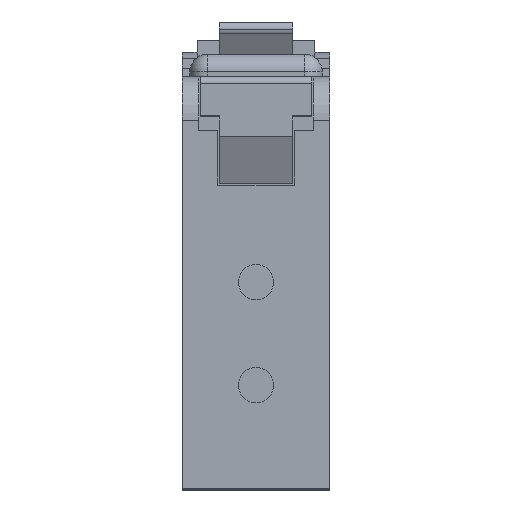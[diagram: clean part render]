
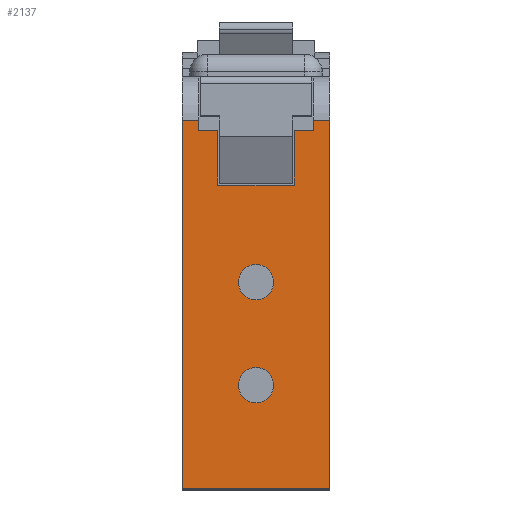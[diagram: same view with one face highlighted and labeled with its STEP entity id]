
A CAD part, top view. The second image highlights one B-rep face of the part: STEP entity #2137.
In plain terms, the highlighted planar face has unit normal (0, 0, 1).
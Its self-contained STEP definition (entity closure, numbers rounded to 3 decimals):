
#79 = CARTESIAN_POINT ( 'NONE',  ( 5., 14., 0. ) ) ;
#150 = EDGE_CURVE ( 'NONE', #2617, #3786, #3608, .T. ) ;
#167 = VERTEX_POINT ( 'NONE', #5317 ) ;
#223 = VECTOR ( 'NONE', #2674, 1000. ) ;
#238 = CARTESIAN_POINT ( 'NONE',  ( 0., 0., 0. ) ) ;
#265 = ORIENTED_EDGE ( 'NONE', *, *, #2139, .T. ) ;
#286 = DIRECTION ( 'NONE',  ( 1., 0., 0. ) ) ;
#400 = VERTEX_POINT ( 'NONE', #4732 ) ;
#408 = CIRCLE ( 'NONE', #1523, 1.2 ) ;
#447 = DIRECTION ( 'NONE',  ( 0., -1., 0. ) ) ;
#459 = DIRECTION ( 'NONE',  ( 0., 0., -1. ) ) ;
#489 = DIRECTION ( 'NONE',  ( 0., 0., 1. ) ) ;
#520 = ORIENTED_EDGE ( 'NONE', *, *, #5043, .F. ) ;
#551 = VERTEX_POINT ( 'NONE', #1941 ) ;
#553 = CARTESIAN_POINT ( 'NONE',  ( 3.9, 10.3, 0. ) ) ;
#635 = DIRECTION ( 'NONE',  ( -1., 0., 0. ) ) ;
#642 = CARTESIAN_POINT ( 'NONE',  ( 3.9, 14., 0. ) ) ;
#654 = CARTESIAN_POINT ( 'NONE',  ( -5., -14., 0. ) ) ;
#675 = AXIS2_PLACEMENT_3D ( 'NONE', #4463, #489, #5735 ) ;
#689 = CARTESIAN_POINT ( 'NONE',  ( 5., 11., 0. ) ) ;
#752 = LINE ( 'NONE', #642, #5416 ) ;
#781 = VECTOR ( 'NONE', #5353, 1000. ) ;
#783 = CARTESIAN_POINT ( 'NONE',  ( 5., 14., 0. ) ) ;
#798 = VECTOR ( 'NONE', #3757, 1000. ) ;
#845 = CARTESIAN_POINT ( 'NONE',  ( 5., 11., 0. ) ) ;
#871 = CARTESIAN_POINT ( 'NONE',  ( 1.2, -7., 0. ) ) ;
#873 = EDGE_LOOP ( 'NONE', ( #4418, #2719 ) ) ;
#901 = DIRECTION ( 'NONE',  ( 0., 0., 1. ) ) ;
#927 = CARTESIAN_POINT ( 'NONE',  ( 0., -7., 0. ) ) ;
#1043 = VECTOR ( 'NONE', #3711, 1000. ) ;
#1065 = CARTESIAN_POINT ( 'NONE',  ( 5., -14., 0. ) ) ;
#1083 = ORIENTED_EDGE ( 'NONE', *, *, #4766, .F. ) ;
#1118 = CARTESIAN_POINT ( 'NONE',  ( 2.6, 10.3, 0. ) ) ;
#1161 = VERTEX_POINT ( 'NONE', #4917 ) ;
#1197 = ORIENTED_EDGE ( 'NONE', *, *, #3193, .T. ) ;
#1318 = ORIENTED_EDGE ( 'NONE', *, *, #4819, .F. ) ;
#1391 = CARTESIAN_POINT ( 'NONE',  ( 2.6, 10.3, 0. ) ) ;
#1417 = VECTOR ( 'NONE', #635, 1000. ) ;
#1449 = DIRECTION ( 'NONE',  ( 1., 0., 0. ) ) ;
#1469 = CARTESIAN_POINT ( 'NONE',  ( -3.9, 11., 0. ) ) ;
#1523 = AXIS2_PLACEMENT_3D ( 'NONE', #927, #901, #5062 ) ;
#1545 = DIRECTION ( 'NONE',  ( 0., 1., 0. ) ) ;
#1659 = VERTEX_POINT ( 'NONE', #3656 ) ;
#1756 = ORIENTED_EDGE ( 'NONE', *, *, #5008, .T. ) ;
#1789 = EDGE_CURVE ( 'NONE', #5133, #3795, #5046, .T. ) ;
#1806 = CARTESIAN_POINT ( 'NONE',  ( 2.6, 6.6, 0. ) ) ;
#1814 = CARTESIAN_POINT ( 'NONE',  ( -3.9, 10.3, 0. ) ) ;
#1851 = LINE ( 'NONE', #3618, #1417 ) ;
#1852 = ORIENTED_EDGE ( 'NONE', *, *, #150, .F. ) ;
#1926 = EDGE_CURVE ( 'NONE', #2174, #5133, #5707, .T. ) ;
#1941 = CARTESIAN_POINT ( 'NONE',  ( 1.2, 0., 0. ) ) ;
#2038 = ORIENTED_EDGE ( 'NONE', *, *, #1926, .F. ) ;
#2059 = CARTESIAN_POINT ( 'NONE',  ( 0., -7., 0. ) ) ;
#2103 = EDGE_CURVE ( 'NONE', #1659, #551, #2991, .T. ) ;
#2132 = VERTEX_POINT ( 'NONE', #1391 ) ;
#2137 = ADVANCED_FACE ( 'NONE', ( #4872, #2667, #4053 ), #4433, .F. ) ;
#2139 = EDGE_CURVE ( 'NONE', #2617, #1161, #1851, .T. ) ;
#2174 = VERTEX_POINT ( 'NONE', #689 ) ;
#2226 = DIRECTION ( 'NONE',  ( -1., 0., 0. ) ) ;
#2253 = LINE ( 'NONE', #4978, #781 ) ;
#2319 = DIRECTION ( 'NONE',  ( 1., 0., 0. ) ) ;
#2400 = ORIENTED_EDGE ( 'NONE', *, *, #3903, .F. ) ;
#2401 = VERTEX_POINT ( 'NONE', #5152 ) ;
#2463 = EDGE_LOOP ( 'NONE', ( #1852, #265, #1756, #3315, #2038, #1197, #1318, #3304, #2400, #3898, #520, #3634 ) ) ;
#2503 = LINE ( 'NONE', #1118, #3829 ) ;
#2607 = VERTEX_POINT ( 'NONE', #4132 ) ;
#2617 = VERTEX_POINT ( 'NONE', #1469 ) ;
#2665 = CARTESIAN_POINT ( 'NONE',  ( -1.2, -7., 0. ) ) ;
#2667 = FACE_BOUND ( 'NONE', #3190, .T. ) ;
#2674 = DIRECTION ( 'NONE',  ( -1., 0., 0. ) ) ;
#2683 = VECTOR ( 'NONE', #447, 1000. ) ;
#2689 = LINE ( 'NONE', #4492, #3557 ) ;
#2719 = ORIENTED_EDGE ( 'NONE', *, *, #2103, .F. ) ;
#2726 = VECTOR ( 'NONE', #2319, 1000. ) ;
#2773 = VERTEX_POINT ( 'NONE', #2665 ) ;
#2802 = CARTESIAN_POINT ( 'NONE',  ( -2.6, 6.6, 0. ) ) ;
#2933 = CARTESIAN_POINT ( 'NONE',  ( 5., -14., 0. ) ) ;
#2991 = CIRCLE ( 'NONE', #675, 1.2 ) ;
#3015 = DIRECTION ( 'NONE',  ( 0., -1., 0. ) ) ;
#3190 = EDGE_LOOP ( 'NONE', ( #4736, #1083 ) ) ;
#3193 = EDGE_CURVE ( 'NONE', #2174, #167, #3540, .T. ) ;
#3200 = AXIS2_PLACEMENT_3D ( 'NONE', #238, #5565, #286 ) ;
#3304 = ORIENTED_EDGE ( 'NONE', *, *, #3385, .F. ) ;
#3312 = DIRECTION ( 'NONE',  ( 0., 0., 1. ) ) ;
#3315 = ORIENTED_EDGE ( 'NONE', *, *, #1789, .F. ) ;
#3385 = EDGE_CURVE ( 'NONE', #2132, #2401, #4527, .T. ) ;
#3540 = LINE ( 'NONE', #845, #223 ) ;
#3557 = VECTOR ( 'NONE', #1449, 1000. ) ;
#3561 = VERTEX_POINT ( 'NONE', #871 ) ;
#3573 = AXIS2_PLACEMENT_3D ( 'NONE', #2059, #3312, #3793 ) ;
#3608 = LINE ( 'NONE', #1814, #2683 ) ;
#3618 = CARTESIAN_POINT ( 'NONE',  ( 5., 11., 0. ) ) ;
#3634 = ORIENTED_EDGE ( 'NONE', *, *, #5006, .F. ) ;
#3656 = CARTESIAN_POINT ( 'NONE',  ( -1.2, 0., 0. ) ) ;
#3711 = DIRECTION ( 'NONE',  ( -1., 0., 0. ) ) ;
#3757 = DIRECTION ( 'NONE',  ( 0., -1., 0. ) ) ;
#3770 = EDGE_CURVE ( 'NONE', #3561, #2773, #408, .T. ) ;
#3786 = VERTEX_POINT ( 'NONE', #4568 ) ;
#3793 = DIRECTION ( 'NONE',  ( 1., 0., 0. ) ) ;
#3795 = VERTEX_POINT ( 'NONE', #654 ) ;
#3829 = VECTOR ( 'NONE', #5607, 1000. ) ;
#3835 = VECTOR ( 'NONE', #5343, 1000. ) ;
#3898 = ORIENTED_EDGE ( 'NONE', *, *, #4411, .F. ) ;
#3903 = EDGE_CURVE ( 'NONE', #2607, #2132, #2503, .T. ) ;
#4053 = FACE_OUTER_BOUND ( 'NONE', #2463, .T. ) ;
#4132 = CARTESIAN_POINT ( 'NONE',  ( 2.6, 6.6, 0. ) ) ;
#4188 = AXIS2_PLACEMENT_3D ( 'NONE', #79, #459, #2226 ) ;
#4223 = LINE ( 'NONE', #2802, #798 ) ;
#4411 = EDGE_CURVE ( 'NONE', #4588, #2607, #5220, .T. ) ;
#4418 = ORIENTED_EDGE ( 'NONE', *, *, #4759, .F. ) ;
#4433 = PLANE ( 'NONE',  #4188 ) ;
#4463 = CARTESIAN_POINT ( 'NONE',  ( 0., 0., 0. ) ) ;
#4492 = CARTESIAN_POINT ( 'NONE',  ( -2.6, 10.3, 0. ) ) ;
#4527 = LINE ( 'NONE', #553, #2726 ) ;
#4568 = CARTESIAN_POINT ( 'NONE',  ( -3.9, 10.3, 0. ) ) ;
#4588 = VERTEX_POINT ( 'NONE', #4936 ) ;
#4732 = CARTESIAN_POINT ( 'NONE',  ( -2.6, 10.3, 0. ) ) ;
#4736 = ORIENTED_EDGE ( 'NONE', *, *, #3770, .F. ) ;
#4759 = EDGE_CURVE ( 'NONE', #551, #1659, #5325, .T. ) ;
#4766 = EDGE_CURVE ( 'NONE', #2773, #3561, #5232, .T. ) ;
#4819 = EDGE_CURVE ( 'NONE', #2401, #167, #752, .T. ) ;
#4872 = FACE_BOUND ( 'NONE', #873, .T. ) ;
#4917 = CARTESIAN_POINT ( 'NONE',  ( -5., 11., 0. ) ) ;
#4936 = CARTESIAN_POINT ( 'NONE',  ( -2.6, 6.6, 0. ) ) ;
#4978 = CARTESIAN_POINT ( 'NONE',  ( -5., 14., 0. ) ) ;
#5006 = EDGE_CURVE ( 'NONE', #3786, #400, #2689, .T. ) ;
#5008 = EDGE_CURVE ( 'NONE', #1161, #3795, #2253, .T. ) ;
#5043 = EDGE_CURVE ( 'NONE', #400, #4588, #4223, .T. ) ;
#5046 = LINE ( 'NONE', #2933, #1043 ) ;
#5062 = DIRECTION ( 'NONE',  ( 1., 0., 0. ) ) ;
#5133 = VERTEX_POINT ( 'NONE', #1065 ) ;
#5152 = CARTESIAN_POINT ( 'NONE',  ( 3.9, 10.3, 0. ) ) ;
#5220 = LINE ( 'NONE', #1806, #3835 ) ;
#5232 = CIRCLE ( 'NONE', #3573, 1.2 ) ;
#5296 = VECTOR ( 'NONE', #3015, 1000. ) ;
#5317 = CARTESIAN_POINT ( 'NONE',  ( 3.9, 11., 0. ) ) ;
#5325 = CIRCLE ( 'NONE', #3200, 1.2 ) ;
#5343 = DIRECTION ( 'NONE',  ( 1., 0., 0. ) ) ;
#5353 = DIRECTION ( 'NONE',  ( 0., -1., 0. ) ) ;
#5416 = VECTOR ( 'NONE', #1545, 1000. ) ;
#5565 = DIRECTION ( 'NONE',  ( 0., 0., 1. ) ) ;
#5607 = DIRECTION ( 'NONE',  ( 0., 1., 0. ) ) ;
#5707 = LINE ( 'NONE', #783, #5296 ) ;
#5735 = DIRECTION ( 'NONE',  ( 1., 0., 0. ) ) ;
